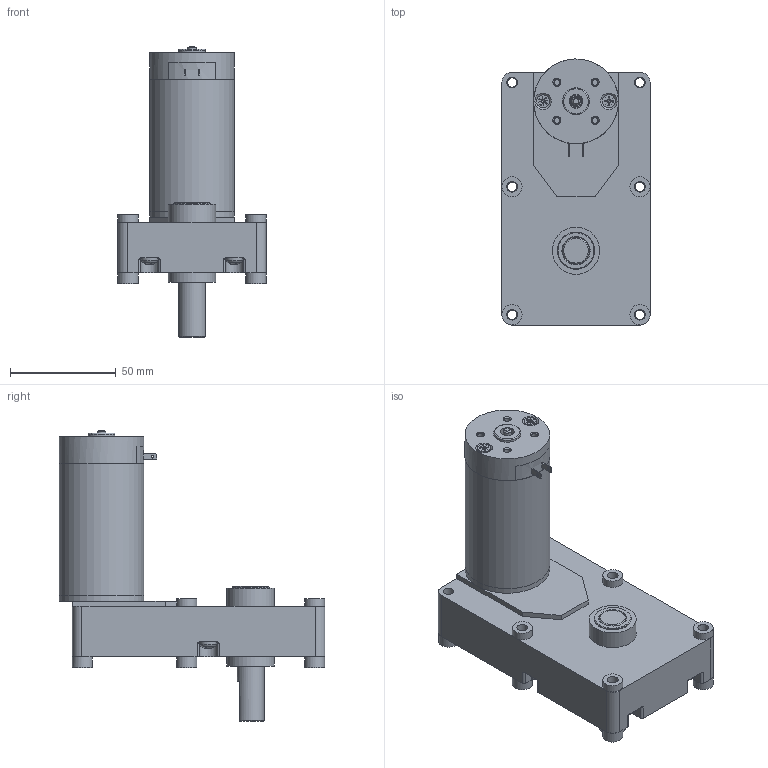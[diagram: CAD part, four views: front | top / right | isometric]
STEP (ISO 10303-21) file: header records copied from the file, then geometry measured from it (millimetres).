
FILE_DESCRIPTION((''),'2;1');
FILE_NAME('D:\업무 관련\2. DC\홈페이지 링크용 도면\3D\SG\SG46BT.stp','2015-04-04T09:21:02',('leejy'),(''),'Autodesk Inventor 2013','Autodesk Inventor 2013','');
FILE_SCHEMA(('AUTOMOTIVE_DESIGN { 1 0 10303 214 1 1 1 1 }'));
Length unit declared in the file: millimetre
Products named in the file (10): SG46BT; SG2 SERIES BOX; RM46ㅁBT; REAR_HOUSING__ASS'Y_TERMINAL; RM4TYPE_BRUSH_BRAKET_TERMINAL; RM4TYPE_REAR_HOUSING; RM4TYPE_FRONT_HOUSING_; RM4TYPE_PIPE_HOUSING_pi40XL62.4; RM46TYPE_SHAFT; AS 1427 Z - 미터 M3.5 x 5
Assembly tree (9 placements, depth 3):
  SG46BT
    SG2 SERIES BOX
    RM46ㅁBT
      RM4TYPE_FRONT_HOUSING_
      RM4TYPE_PIPE_HOUSING_pi40XL62.4
      RM46TYPE_SHAFT
      AS 1427 Z - 미터 M3.5 x 5  x2
  REAR_HOUSING__ASS'Y_TERMINAL
    RM4TYPE_BRUSH_BRAKET_TERMINAL
    RM4TYPE_REAR_HOUSING
Bounding box: 69.85 x 125.41 x 137.28 mm (x, y, z)
Volume: 125956.2 mm3; surface area: 80000 mm2
Topology: 9 solids, 9 shells, 537 faces, 1406 edges, 909 vertices
Faces by surface type: plane 215, cylinder 129, cone 127, torus 60, sphere 6
Full cylindrical faces by diameter (mm): 1.2 x2, 2.7 x4, 2.8 x4, 3.132 x2, 3.5 x2, 3.571 x6, 3.7 x2, 3.969 x1, 4 x7, 4.3 x6, 4.4 x6, 4.45 x1, 5 x1, 5.05 x6, 6 x1, 6.1 x2, 6.5 x1, 6.65 x1, 9.4 x1, 9.5 x9, 12.7 x5, 17.5 x4, 20.3 x1, 22.3 x2, 36.5 x1, 40 x3
Entity records: 15561 total; most frequent: CARTESIAN_POINT 3884, DIRECTION 2351, ORIENTED_EDGE 2186, EDGE_CURVE 1093, AXIS2_PLACEMENT_3D 996, VERTEX_POINT 779, EDGE_LOOP 718, FACE_OUTER_BOUND 496
